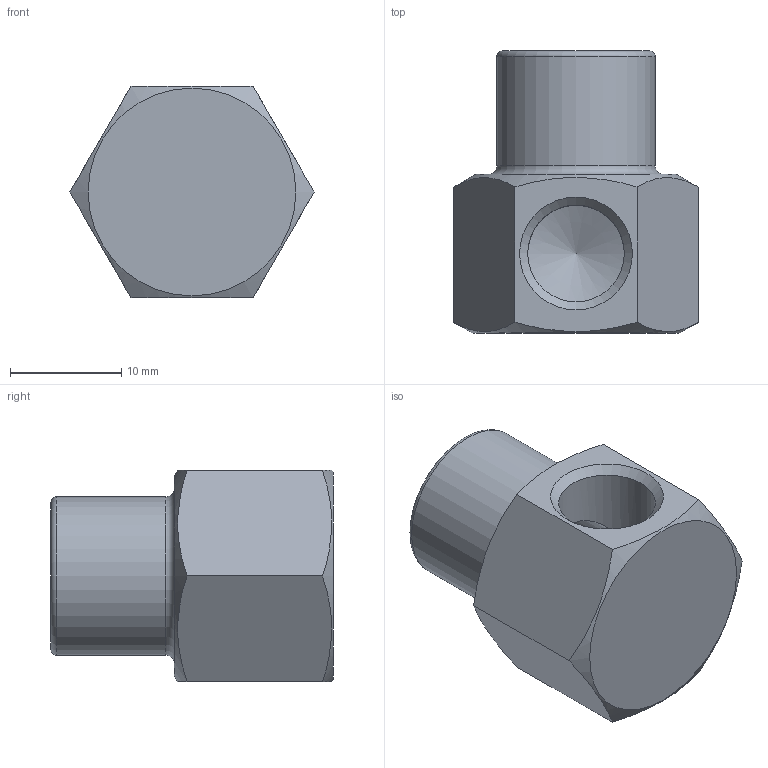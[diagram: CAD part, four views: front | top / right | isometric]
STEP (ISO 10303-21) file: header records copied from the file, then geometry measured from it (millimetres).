
FILE_DESCRIPTION(/* description */ (''),/* implementation_level */ '2;1');
FILE_NAME(/* name */ 'C:/Users/drich/Desktop/18B v1.step',/* time_stamp */ '2020-01-14T10:40:08-06:00',/* author */ (''),/* organization */ (''),/* preprocessor_version */ 'ST-DEVELOPER v18',/* originating_system */ 'Autodesk Translation Framework v8.12.0.6',/* authorisation */ '');
FILE_SCHEMA (('AUTOMOTIVE_DESIGN { 1 0 10303 214 3 1 1 }'));
Length unit declared in the file: inch
Products named in the file (1): 18B
Bounding box: 22 x 25.4 x 19.05 mm (x, y, z)
Volume: 4490.9 mm3; surface area: 2649.7 mm2
Topology: 1 solids, 1 shells, 21 faces, 55 edges, 37 vertices
Faces by surface type: plane 9, cone 7, cylinder 3, torus 2
Full cylindrical faces by diameter (mm): 8.707 x2, 14.275 x1
Entity records: 695 total; most frequent: CARTESIAN_POINT 152, ORIENTED_EDGE 108, DIRECTION 106, EDGE_CURVE 54, AXIS2_PLACEMENT_3D 46, VERTEX_POINT 37, EDGE_LOOP 25, FACE_OUTER_BOUND 21
